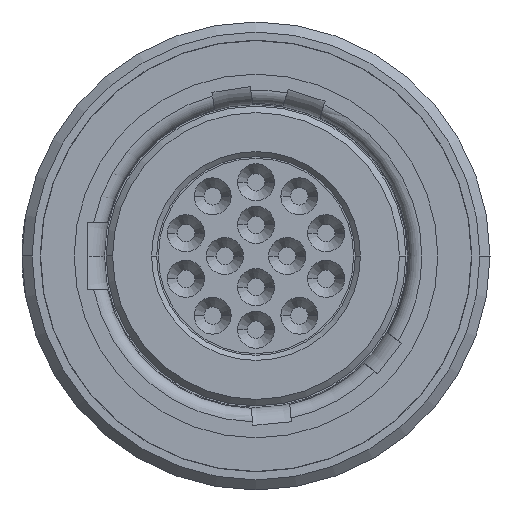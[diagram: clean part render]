
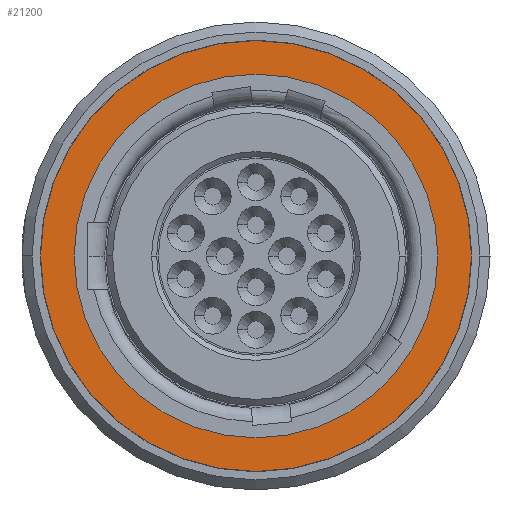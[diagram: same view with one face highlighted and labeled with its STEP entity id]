
A CAD part, left-side view. The second image highlights one B-rep face of the part: STEP entity #21200.
In plain terms, the highlighted planar face has unit normal (-1, 0, 0).
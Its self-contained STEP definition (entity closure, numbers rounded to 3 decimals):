
#4752=CARTESIAN_POINT('',(-8.01,0.,0.));
#4753=DIRECTION('',(1.,0.,0.));
#4754=DIRECTION('',(0.,1.,0.));
#4755=AXIS2_PLACEMENT_3D('',#4752,#4753,#4754);
#4757=CARTESIAN_POINT('',(-8.01,0.,0.));
#4758=DIRECTION('',(1.,0.,0.));
#4759=DIRECTION('',(0.,-1.,0.));
#4760=AXIS2_PLACEMENT_3D('',#4757,#4758,#4759);
#4762=CARTESIAN_POINT('',(-8.01,0.,0.));
#4763=DIRECTION('',(-1.,0.,0.));
#4764=DIRECTION('',(0.,1.,0.));
#4765=AXIS2_PLACEMENT_3D('',#4762,#4763,#4764);
#4767=CARTESIAN_POINT('',(-8.01,0.,0.));
#4768=DIRECTION('',(-1.,0.,0.));
#4769=DIRECTION('',(0.,-1.,0.));
#4770=AXIS2_PLACEMENT_3D('',#4767,#4768,#4769);
#11784=CARTESIAN_POINT('',(-8.01,-6.4,0.));
#11785=VERTEX_POINT('',#11784);
#11786=CARTESIAN_POINT('',(-8.01,6.4,0.));
#11787=VERTEX_POINT('',#11786);
#11788=CARTESIAN_POINT('',(-8.01,5.4,0.));
#11789=CARTESIAN_POINT('',(-8.01,-5.4,0.));
#11790=VERTEX_POINT('',#11788);
#11791=VERTEX_POINT('',#11789);
#21185=CARTESIAN_POINT('',(-8.01,0.,0.));
#21186=DIRECTION('',(-1.,0.,0.));
#21187=DIRECTION('',(0.,1.,0.));
#21188=AXIS2_PLACEMENT_3D('',#21185,#21186,#21187);
#21189=PLANE('',#21188);
#21190=ORIENTED_EDGE('',*,*,#21150,.T.);
#21191=ORIENTED_EDGE('',*,*,#21172,.T.);
#21192=EDGE_LOOP('',(#21190,#21191));
#21193=FACE_OUTER_BOUND('',#21192,.F.);
#21195=ORIENTED_EDGE('',*,*,#21194,.T.);
#21197=ORIENTED_EDGE('',*,*,#21196,.T.);
#21198=EDGE_LOOP('',(#21195,#21197));
#21199=FACE_BOUND('',#21198,.F.);
#4756=CIRCLE('',#4755,6.4);
#4761=CIRCLE('',#4760,6.4);
#4766=CIRCLE('',#4765,5.4);
#4771=CIRCLE('',#4770,5.4);
#21150=EDGE_CURVE('',#11787,#11785,#4756,.T.);
#21172=EDGE_CURVE('',#11785,#11787,#4761,.T.);
#21194=EDGE_CURVE('',#11790,#11791,#4766,.T.);
#21196=EDGE_CURVE('',#11791,#11790,#4771,.T.);
#21200=ADVANCED_FACE('',(#21193,#21199),#21189,.T.);
